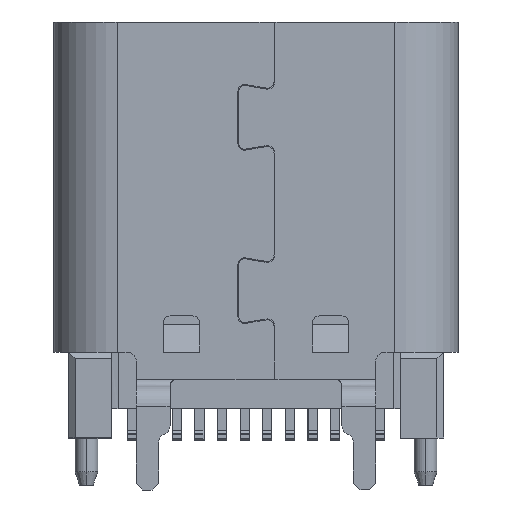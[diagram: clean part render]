
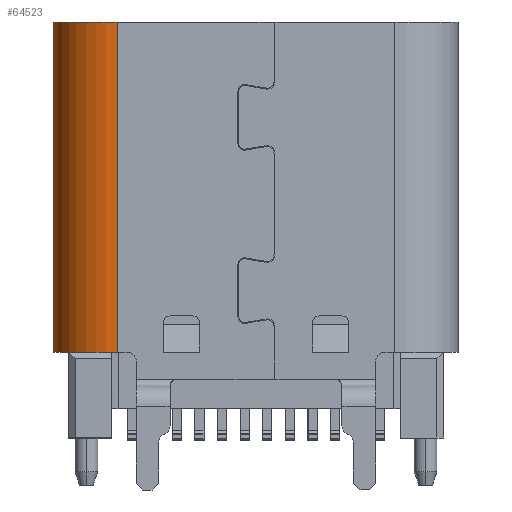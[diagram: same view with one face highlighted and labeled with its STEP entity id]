
A CAD part, front view. The second image highlights one B-rep face of the part: STEP entity #64523.
In plain terms, the highlighted cylindrical face has radius 1.4 mm (diameter 2.8 mm), a partial arc.
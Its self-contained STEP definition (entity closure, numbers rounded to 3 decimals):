
#1843 = VERTEX_POINT ( 'NONE', #57887 ) ;
#2858 = DIRECTION ( 'NONE',  ( 0., 0., -1. ) ) ;
#4554 = CARTESIAN_POINT ( 'NONE',  ( -4.211, -0.748, 14.496 ) ) ;
#6384 = VERTEX_POINT ( 'NONE', #17638 ) ;
#8338 = AXIS2_PLACEMENT_3D ( 'NONE', #23169, #35357, #34169 ) ;
#15076 = DIRECTION ( 'NONE',  ( 0., 0., 1. ) ) ;
#17638 = CARTESIAN_POINT ( 'NONE',  ( -5.611, -0.748, 21.943 ) ) ;
#21160 = ORIENTED_EDGE ( 'NONE', *, *, #67833, .T. ) ;
#21184 = LINE ( 'NONE', #63449, #55683 ) ;
#23169 = CARTESIAN_POINT ( 'NONE',  ( -4.211, -0.748, 21.943 ) ) ;
#26979 = CARTESIAN_POINT ( 'NONE',  ( -4.211, -2.148, 14.643 ) ) ;
#27254 = VERTEX_POINT ( 'NONE', #26979 ) ;
#28879 = VERTEX_POINT ( 'NONE', #33505 ) ;
#29356 = DIRECTION ( 'NONE',  ( 1., 0., 0. ) ) ;
#31321 = ORIENTED_EDGE ( 'NONE', *, *, #49913, .F. ) ;
#33257 = EDGE_CURVE ( 'NONE', #6384, #28879, #52489, .T. ) ;
#33505 = CARTESIAN_POINT ( 'NONE',  ( -5.611, -0.748, 14.643 ) ) ;
#34169 = DIRECTION ( 'NONE',  ( -1., 0., 0. ) ) ;
#35357 = DIRECTION ( 'NONE',  ( 0., 0., 1. ) ) ;
#35474 = FACE_OUTER_BOUND ( 'NONE', #62319, .T. ) ;
#45663 = AXIS2_PLACEMENT_3D ( 'NONE', #4554, #48464, #29356 ) ;
#46529 = DIRECTION ( 'NONE',  ( 0., 0., 1. ) ) ;
#48464 = DIRECTION ( 'NONE',  ( 0., 0., 1. ) ) ;
#49913 = EDGE_CURVE ( 'NONE', #6384, #1843, #77179, .T. ) ;
#52489 = LINE ( 'NONE', #70773, #54012 ) ;
#54012 = VECTOR ( 'NONE', #2858, 1000. ) ;
#55683 = VECTOR ( 'NONE', #15076, 1000. ) ;
#57887 = CARTESIAN_POINT ( 'NONE',  ( -4.211, -2.148, 21.943 ) ) ;
#59110 = ORIENTED_EDGE ( 'NONE', *, *, #69616, .T. ) ;
#60266 = CYLINDRICAL_SURFACE ( 'NONE', #45663, 1.4 ) ;
#62319 = EDGE_LOOP ( 'NONE', ( #31321, #77524, #59110, #21160 ) ) ;
#63449 = CARTESIAN_POINT ( 'NONE',  ( -4.211, -2.148, 18.018 ) ) ;
#64523 = ADVANCED_FACE ( 'NONE', ( #35474 ), #60266, .T. ) ;
#65618 = DIRECTION ( 'NONE',  ( 1., 0., 0. ) ) ;
#66416 = CARTESIAN_POINT ( 'NONE',  ( -4.211, -0.748, 14.643 ) ) ;
#67833 = EDGE_CURVE ( 'NONE', #27254, #1843, #21184, .T. ) ;
#68679 = CIRCLE ( 'NONE', #79077, 1.4 ) ;
#69616 = EDGE_CURVE ( 'NONE', #28879, #27254, #68679, .T. ) ;
#70773 = CARTESIAN_POINT ( 'NONE',  ( -5.611, -0.748, 14.496 ) ) ;
#77179 = CIRCLE ( 'NONE', #8338, 1.4 ) ;
#77524 = ORIENTED_EDGE ( 'NONE', *, *, #33257, .T. ) ;
#79077 = AXIS2_PLACEMENT_3D ( 'NONE', #66416, #46529, #65618 ) ;
